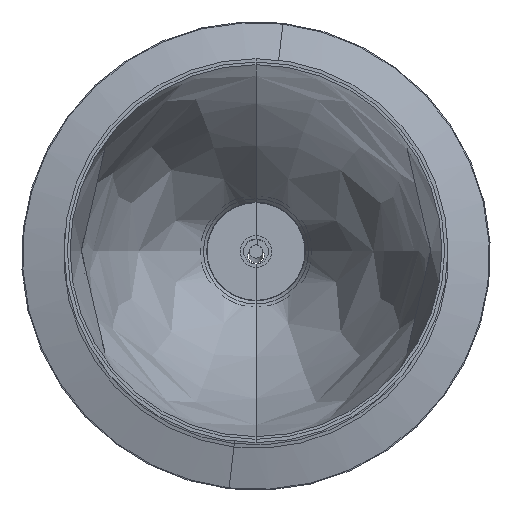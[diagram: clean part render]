
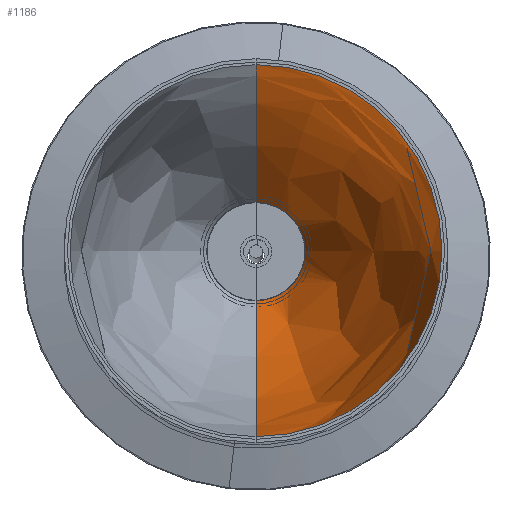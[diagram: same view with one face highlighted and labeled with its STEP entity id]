
A CAD part, top view. The second image highlights one B-rep face of the part: STEP entity #1186.
In plain terms, the highlighted free-form (B-spline) face has degree [2, 2] with [3, 5] control points.
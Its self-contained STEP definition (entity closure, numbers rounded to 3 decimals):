
#20=(
BOUNDED_SURFACE()
B_SPLINE_SURFACE(2,2,((#2207,#2208,#2209,#2210,#2211),(#2212,#2213,#2214,
#2215,#2216),(#2217,#2218,#2219,#2220,#2221)),.UNSPECIFIED.,.F.,.F.,.F.)
B_SPLINE_SURFACE_WITH_KNOTS((3,3),(3,2,3),(-0.593,-0.032),
(-1.571,0.,1.571),.UNSPECIFIED.)
GEOMETRIC_REPRESENTATION_ITEM()
RATIONAL_B_SPLINE_SURFACE(((1.,0.707,1.,0.707,1.),
(0.961,0.679,0.961,0.679,
0.961),(1.,0.707,1.,0.707,1.)))
REPRESENTATION_ITEM('')
SURFACE()
);
#146=FACE_OUTER_BOUND('',#234,.T.);
#234=EDGE_LOOP('',(#906,#907,#908,#909));
#440=CIRCLE('',#1308,14.767);
#441=CIRCLE('',#1309,240.225);
#442=CIRCLE('',#1310,55.699);
#443=CIRCLE('',#1311,240.225);
#542=VERTEX_POINT('',#2222);
#543=VERTEX_POINT('',#2223);
#544=VERTEX_POINT('',#2225);
#545=VERTEX_POINT('',#2227);
#664=EDGE_CURVE('',#542,#543,#440,.T.);
#665=EDGE_CURVE('',#544,#542,#441,.T.);
#666=EDGE_CURVE('',#545,#544,#442,.T.);
#667=EDGE_CURVE('',#543,#545,#443,.T.);
#906=ORIENTED_EDGE('',*,*,#664,.F.);
#907=ORIENTED_EDGE('',*,*,#665,.F.);
#908=ORIENTED_EDGE('',*,*,#666,.F.);
#909=ORIENTED_EDGE('',*,*,#667,.F.);
#1186=ADVANCED_FACE('',(#146),#20,.T.);
#1308=AXIS2_PLACEMENT_3D('',#2224,#1566,#1567);
#1309=AXIS2_PLACEMENT_3D('',#2226,#1568,#1569);
#1310=AXIS2_PLACEMENT_3D('',#2228,#1570,#1571);
#1311=AXIS2_PLACEMENT_3D('',#2229,#1572,#1573);
#1566=DIRECTION('center_axis',(0.,0.,
1.));
#1567=DIRECTION('ref_axis',(1.,0.,0.));
#1568=DIRECTION('center_axis',(1.,0.,0.));
#1569=DIRECTION('ref_axis',(0.,-1.,0.));
#1570=DIRECTION('center_axis',(0.,0.,
-1.));
#1571=DIRECTION('ref_axis',(1.,0.,0.));
#1572=DIRECTION('center_axis',(1.,0.,0.));
#1573=DIRECTION('ref_axis',(0.,1.,0.));
#2207=CARTESIAN_POINT('Ctrl Pts',(0.,-14.767,
111.121));
#2208=CARTESIAN_POINT('Ctrl Pts',(14.767,-14.767,111.121));
#2209=CARTESIAN_POINT('Ctrl Pts',(14.767,0.,
111.121));
#2210=CARTESIAN_POINT('Ctrl Pts',(14.767,14.767,111.121));
#2211=CARTESIAN_POINT('Ctrl Pts',(0.,14.767,
111.121));
#2212=CARTESIAN_POINT('Ctrl Pts',(0.,-53.505,
168.568));
#2213=CARTESIAN_POINT('Ctrl Pts',(53.505,-53.505,168.568));
#2214=CARTESIAN_POINT('Ctrl Pts',(53.505,0.,
168.568));
#2215=CARTESIAN_POINT('Ctrl Pts',(53.505,53.505,168.568));
#2216=CARTESIAN_POINT('Ctrl Pts',(0.,53.505,
168.568));
#2217=CARTESIAN_POINT('Ctrl Pts',(0.,-55.699,
237.821));
#2218=CARTESIAN_POINT('Ctrl Pts',(55.699,-55.699,237.821));
#2219=CARTESIAN_POINT('Ctrl Pts',(55.699,0.,
237.821));
#2220=CARTESIAN_POINT('Ctrl Pts',(55.699,55.699,237.821));
#2221=CARTESIAN_POINT('Ctrl Pts',(0.,55.699,
237.821));
#2222=CARTESIAN_POINT('',(0.,-14.767,111.121));
#2223=CARTESIAN_POINT('',(0.,14.767,111.121));
#2224=CARTESIAN_POINT('Origin',(0.,0.,
111.121));
#2225=CARTESIAN_POINT('',(0.,-55.699,237.821));
#2226=CARTESIAN_POINT('Origin',(0.,184.405,245.428));
#2227=CARTESIAN_POINT('',(0.,55.699,237.821));
#2228=CARTESIAN_POINT('Origin',(0.,0.,
237.821));
#2229=CARTESIAN_POINT('Origin',(0.,-184.405,245.428));
